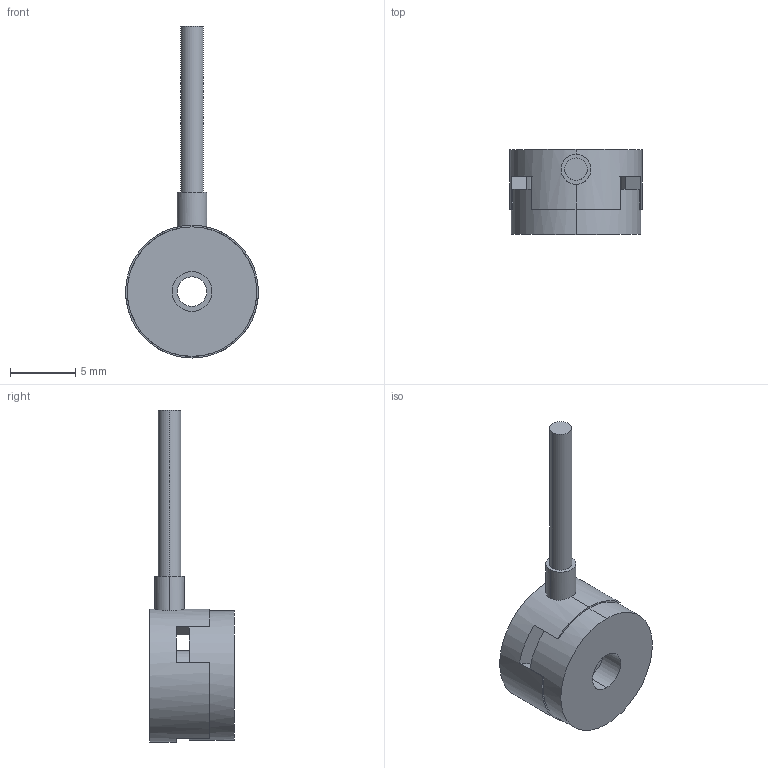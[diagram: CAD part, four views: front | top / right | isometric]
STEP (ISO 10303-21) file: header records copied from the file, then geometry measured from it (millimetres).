
FILE_DESCRIPTION (( 'STEP AP203' ), '1' );
FILE_NAME ('20N.STEP', '2010-03-05T18:59:15', ( 'tom edwards' ), ( 'Tom J. Edwards' ), 'SwSTEP 2.0', 'SolidWorks 2008', '' );
FILE_SCHEMA (( 'CONFIG_CONTROL_DESIGN' ));
Length unit declared in the file: inch
Products named in the file (1): 20N
Bounding box: 10.16 x 6.49 x 25.4 mm (x, y, z)
Volume: 476.8 mm3; surface area: 614.5 mm2
Topology: 1 solids, 1 shells, 33 faces, 99 edges, 66 vertices
Faces by surface type: cylinder 17, plane 16
Entity records: 1260 total; most frequent: CARTESIAN_POINT 235, DIRECTION 207, ORIENTED_EDGE 198, EDGE_CURVE 99, AXIS2_PLACEMENT_3D 78, VERTEX_POINT 66, VECTOR 51, LINE 51
